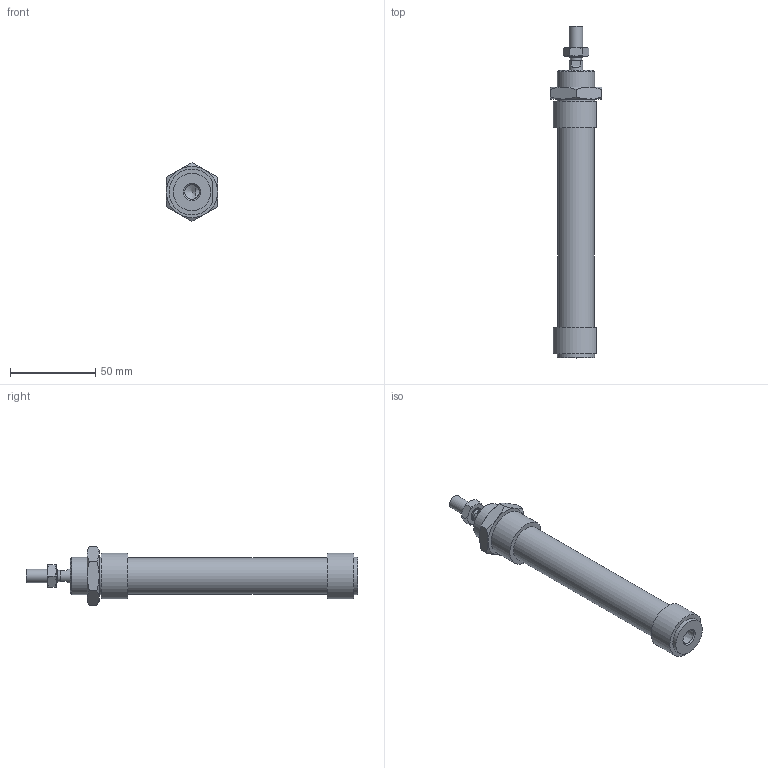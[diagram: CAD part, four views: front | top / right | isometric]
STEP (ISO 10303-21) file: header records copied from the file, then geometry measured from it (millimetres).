
FILE_DESCRIPTION((''),'2;1');
FILE_NAME('I:\Area Tecnica\Disegni\VARIE-3D\Componenti\1280\1281_##_####_#\1281_20_0080.iam.stp','2009-06-04T09:39:10',(''),(''),'Autodesk Inventor 2010','Autodesk Inventor 2010','');
FILE_SCHEMA(('AUTOMOTIVE_DESIGN { 1 0 10303 214 1 1 1 1 }'));
Length unit declared in the file: millimetre
Products named in the file (5): 1281_20_0080; C1281_20_80; S1280_20_80; 1200_20_05; 1200_20_06
Assembly tree (4 placements, depth 2):
  1281_20_0080
    C1281_20_80
    S1280_20_80
    1200_20_05
    1200_20_06
Bounding box: 30 x 194.5 x 34.64 mm (x, y, z)
Volume: 69558 mm3; surface area: 22826.6 mm2
Topology: 4 solids, 4 shells, 86 faces, 185 edges, 112 vertices
Faces by surface type: plane 36, cone 26, bspline 15, cylinder 9
Full cylindrical faces by diameter (mm): 6.5 x1, 8 x3, 21.2 x1, 22 x2
Entity records: 2537 total; most frequent: CARTESIAN_POINT 698, DIRECTION 332, ORIENTED_EDGE 310, EDGE_CURVE 155, AXIS2_PLACEMENT_3D 148, EDGE_LOOP 120, VERTEX_POINT 103, STYLED_ITEM 90
